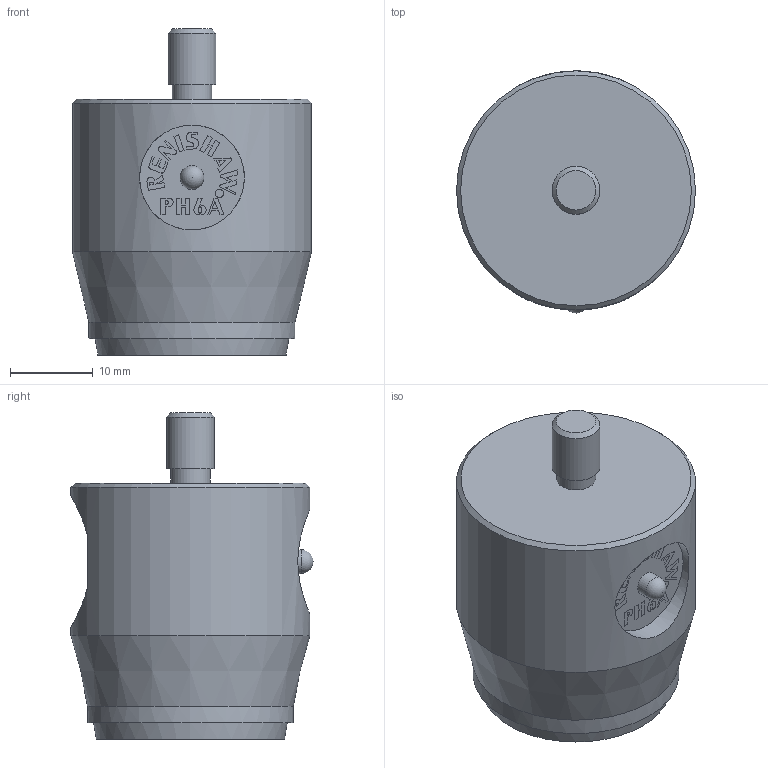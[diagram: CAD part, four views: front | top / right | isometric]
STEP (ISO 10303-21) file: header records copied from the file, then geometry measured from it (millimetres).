
FILE_DESCRIPTION(/* description */ (''),/* implementation_level */ '2;1');
FILE_NAME(/* name */ 'LA-1051-0012#-A.stp',/* time_stamp */ '2012-09-05T07:49:24+01:00',/* author */ (''),/* organization */ (''),/* preprocessor_version */ 'ST-DEVELOPER v11',/* originating_system */ 'SIEMENS PLM Software NX 7.5',/* authorisation */ '');
FILE_SCHEMA (('AUTOMOTIVE_DESIGN { 1 0 10303 214 1 1 1 1 }'));
Length unit declared in the file: millimetre
Products named in the file (1): rt13B55Av56p
Bounding box: 28.95 x 29.32 x 39.5 mm (x, y, z)
Volume: 18506.3 mm3; surface area: 4105.8 mm2
Topology: 1 solids, 1 shells, 38 faces, 180 edges, 167 vertices
Faces by surface type: plane 25, cylinder 8, cone 3, sphere 1, bspline 1
Full cylindrical faces by diameter (mm): 2.9 x1, 4.75 x1, 5.795 x1, 12.7 x1, 24.95 x1, 28.95 x1
Entity records: 2418 total; most frequent: CARTESIAN_POINT 914, ORIENTED_EDGE 330, EDGE_CURVE 165, VERTEX_POINT 163, B_SPLINE_CURVE_WITH_KNOTS 146, DIRECTION 110, EDGE_LOOP 72, AXIS2_PLACEMENT_3D 54
